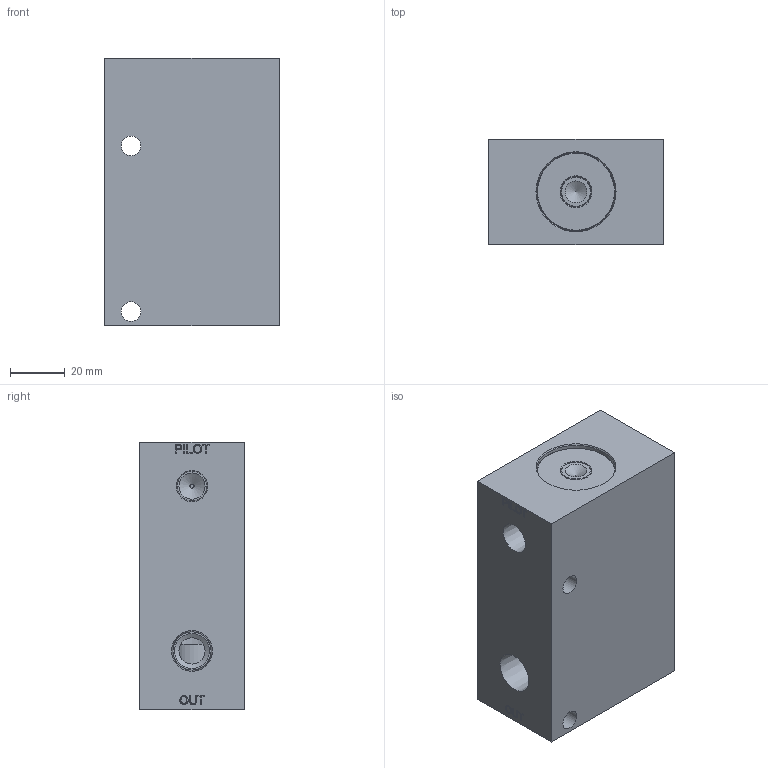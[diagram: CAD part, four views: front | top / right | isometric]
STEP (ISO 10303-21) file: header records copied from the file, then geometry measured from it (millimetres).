
FILE_DESCRIPTION(/* description */ (''),/* implementation_level */ '2;1');
FILE_NAME(/* name */ 'L:\ALADCO\Advertising\3D Content\Valves\Step Files - 2014-11-19 thru Present\31380X.stp',/* time_stamp */ '2014-11-19T14:08:42-06:00',/* author */ ('dmatz'),/* organization */ ('Aladdin Eng. & Manf. Inc.'),/* preprocessor_version */ 'ST-DEVELOPER v15.2',/* originating_system */ 'Autodesk Inventor 2014',/* authorisation */ '0 in^3');
FILE_SCHEMA (('AUTOMOTIVE_DESIGN { 1 0 10303 214 3 1 1 }'));
Length unit declared in the file: inch
Products named in the file (6): 311040; 301076; 311015; 311020; 301015; 313801
Bounding box: 63.5 x 38.1 x 97.23 mm (x, y, z)
Volume: 199058.7 mm3; surface area: 42560.6 mm2
Topology: 5 solids, 5 shells, 204 faces, 461 edges, 301 vertices
Faces by surface type: plane 104, cylinder 37, bspline 26, cone 24, torus 13
Full cylindrical faces by diameter (mm): 1.499 x1, 3.175 x1, 5.156 x1, 6.35 x2, 6.629 x1, 7.112 x2, 7.938 x1, 9.144 x1, 9.525 x3, 10.719 x1, 11.049 x2, 11.1 x1, 12.7 x3, 13.081 x1, 13.462 x1, 13.894 x2, 15.081 x1, 17.577 x1, 22.149 x1, 24.409 x1, 24.435 x1, 25.4 x2, 28.524 x4, 28.575 x2
Entity records: 5879 total; most frequent: CARTESIAN_POINT 1501, DIRECTION 788, ORIENTED_EDGE 728, EDGE_CURVE 364, EDGE_LOOP 328, AXIS2_PLACEMENT_3D 294, VERTEX_POINT 278, ADVANCED_FACE 204
